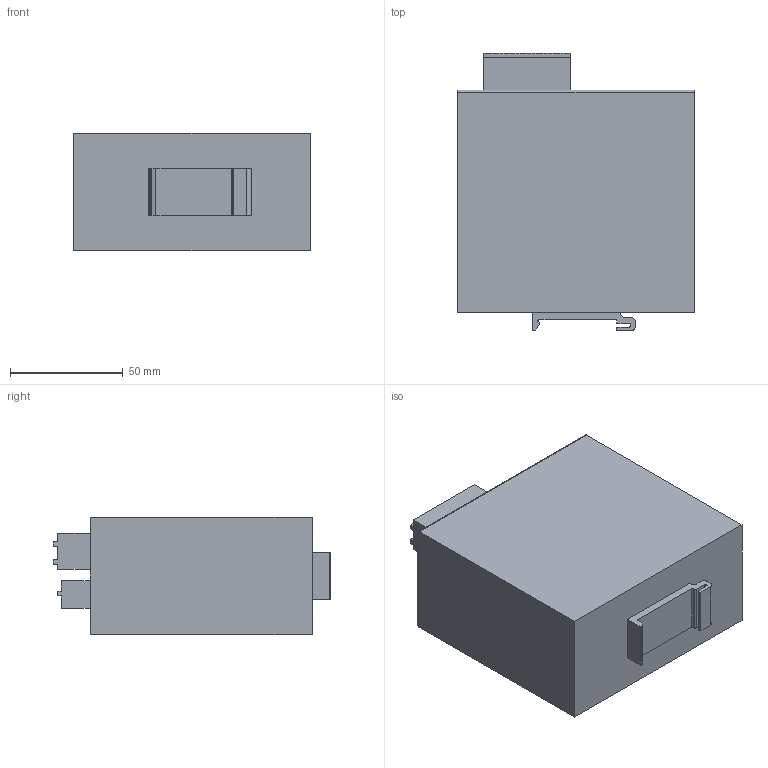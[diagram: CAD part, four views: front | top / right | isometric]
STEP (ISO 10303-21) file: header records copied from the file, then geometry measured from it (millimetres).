
FILE_DESCRIPTION((''),'2;1');
FILE_NAME('ASM0002_ASM_18_ASM','2025-04-11T',('Administrator'),(''),'PRO/ENGINEER BY PARAMETRIC TECHNOLOGY CORPORATION, 2015240','PRO/ENGINEER BY PARAMETRIC TECHNOLOGY CORPORATION, 2015240','');
FILE_SCHEMA(('CONFIG_CONTROL_DESIGN'));
Products named in the file (11): PRT0001_23; AMP_RJ45_MODULAR_JACK_HOUSING_1; AMP_RJ45_MODULAR_JACK_PIN_1; AMP_RJ45_MODULAR_JACK_SOLDER_PI; AMP_RJ45_MODULAR_JACK_SHIELD_1; ASM0001_ASM_1_ASM; RJ45_MODULAR_JACK_-_AMP_1-40654_ASM; PRT0002_1; 03_4; 01_2; ASM0002_ASM_18_ASM
Assembly tree (25 placements, depth 4):
  ASM0002_ASM_18_ASM
    PRT0001_23
    RJ45_MODULAR_JACK_-_AMP_1-40654_ASM
      ASM0001_ASM_1_ASM
        AMP_RJ45_MODULAR_JACK_HOUSING_1
        AMP_RJ45_MODULAR_JACK_PIN_1  x8
        AMP_RJ45_MODULAR_JACK_SOLDER_PI  x8
        AMP_RJ45_MODULAR_JACK_SHIELD_1
    PRT0002_1
    03_4
    ASM0001_ASM_1_ASM
      AMP_RJ45_MODULAR_JACK_HOUSING_1
      AMP_RJ45_MODULAR_JACK_PIN_1  x8
      AMP_RJ45_MODULAR_JACK_SOLDER_PI  x8
      AMP_RJ45_MODULAR_JACK_SHIELD_1
    01_2
Bounding box: 105 x 123 x 52 mm (x, y, z)
Volume: 550182.6 mm3; surface area: 64097.6 mm2
Topology: 40 solids, 40 shells, 6008 faces, 16959 edges, 11292 vertices
Faces by surface type: plane 5087, cylinder 819, bspline 72, sphere 22, torus 8
Entity records: 157642 total; most frequent: CARTESIAN_POINT 30350, ORIENTED_EDGE 27408, DIRECTION 24569, EDGE_CURVE 13704, VECTOR 12299, LINE 12299, VERTEX_POINT 9129, AXIS2_PLACEMENT_3D 6135
